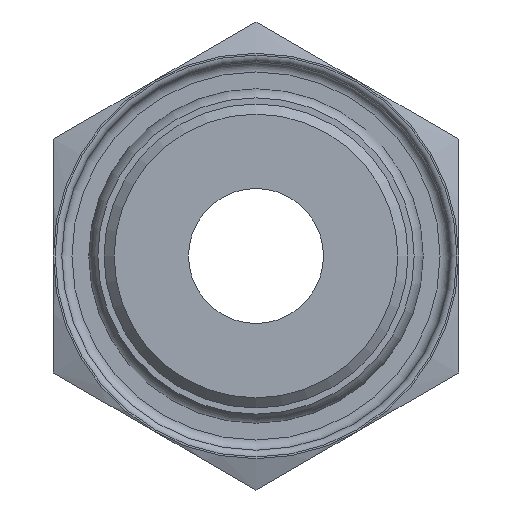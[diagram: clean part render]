
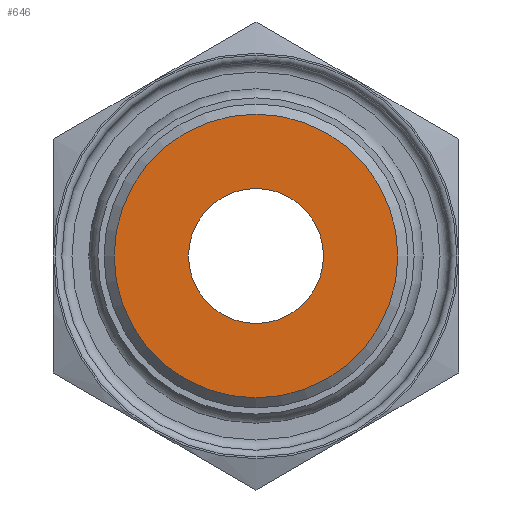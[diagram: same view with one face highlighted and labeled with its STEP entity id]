
A CAD part, front view. The second image highlights one B-rep face of the part: STEP entity #646.
In plain terms, the highlighted planar face has unit normal (0, -1, 0).
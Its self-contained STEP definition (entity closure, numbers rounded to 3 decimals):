
#72=FACE_BOUND('',#166,.T.);
#83=PLANE('',#794);
#116=FACE_OUTER_BOUND('',#165,.T.);
#165=EDGE_LOOP('',(#501));
#166=EDGE_LOOP('',(#502));
#241=CIRCLE('',#753,2.);
#266=CIRCLE('',#789,4.2);
#292=VERTEX_POINT('',#1083);
#313=VERTEX_POINT('',#1144);
#350=EDGE_CURVE('',#292,#292,#241,.T.);
#378=EDGE_CURVE('',#313,#313,#266,.T.);
#501=ORIENTED_EDGE('',*,*,#378,.F.);
#502=ORIENTED_EDGE('',*,*,#350,.T.);
#646=ADVANCED_FACE('',(#116,#72),#83,.T.);
#753=AXIS2_PLACEMENT_3D('',#1085,#862,#863);
#789=AXIS2_PLACEMENT_3D('',#1145,#937,#938);
#794=AXIS2_PLACEMENT_3D('',#1155,#949,#950);
#862=DIRECTION('center_axis',(0.,1.,0.));
#863=DIRECTION('ref_axis',(1.,0.,0.));
#937=DIRECTION('center_axis',(0.,1.,0.));
#938=DIRECTION('ref_axis',(-1.,0.,0.));
#949=DIRECTION('center_axis',(0.,-1.,0.));
#950=DIRECTION('ref_axis',(0.,0.,-1.));
#1083=CARTESIAN_POINT('',(-2.,-5.5,0.));
#1085=CARTESIAN_POINT('Origin',(0.,-5.5,0.));
#1144=CARTESIAN_POINT('',(4.2,-5.5,0.));
#1145=CARTESIAN_POINT('Origin',(0.,-5.5,0.));
#1155=CARTESIAN_POINT('Origin',(0.,-5.5,0.));
